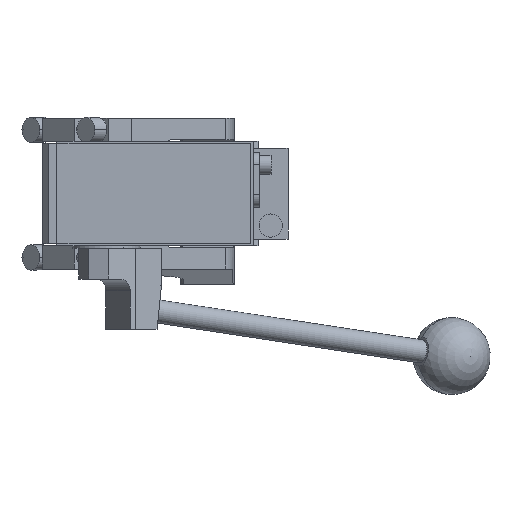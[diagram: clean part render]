
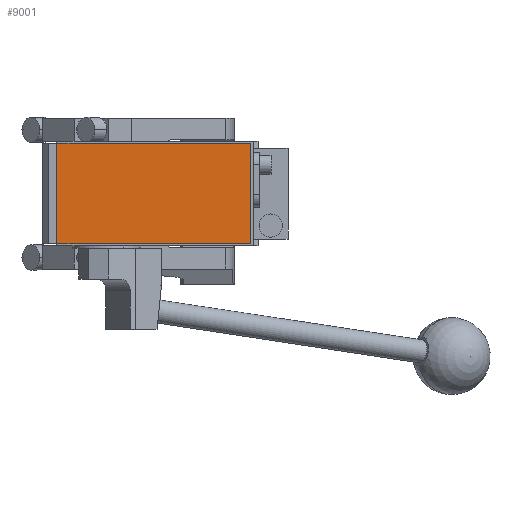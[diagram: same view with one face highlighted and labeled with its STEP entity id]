
A CAD part, front view. The second image highlights one B-rep face of the part: STEP entity #9001.
In plain terms, the highlighted planar face has unit normal (0, -1, 0).
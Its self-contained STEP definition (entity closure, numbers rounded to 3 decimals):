
#502 = CARTESIAN_POINT ( 'NONE',  ( 81., -286.5, 26. ) ) ;
#727 = LINE ( 'NONE', #8986, #7586 ) ;
#858 = EDGE_CURVE ( 'NONE', #5932, #4519, #14308, .T. ) ;
#2540 = ORIENTED_EDGE ( 'NONE', *, *, #858, .T. ) ;
#2554 = LINE ( 'NONE', #502, #7548 ) ;
#2842 = VECTOR ( 'NONE', #3238, 1000. ) ;
#2850 = ORIENTED_EDGE ( 'NONE', *, *, #4741, .T. ) ;
#3238 = DIRECTION ( 'NONE',  ( -1., 0., 0. ) ) ;
#3767 = DIRECTION ( 'NONE',  ( 0., 0., 1. ) ) ;
#4156 = DIRECTION ( 'NONE',  ( 0., -1., 0. ) ) ;
#4519 = VERTEX_POINT ( 'NONE', #12732 ) ;
#4730 = CARTESIAN_POINT ( 'NONE',  ( 81., -286.5, 26. ) ) ;
#4741 = EDGE_CURVE ( 'NONE', #4519, #10769, #727, .T. ) ;
#4847 = CARTESIAN_POINT ( 'NONE',  ( -19., -286.5, 26. ) ) ;
#5283 = AXIS2_PLACEMENT_3D ( 'NONE', #9972, #4156, #11196 ) ;
#5932 = VERTEX_POINT ( 'NONE', #10554 ) ;
#6557 = PLANE ( 'NONE',  #5283 ) ;
#7445 = DIRECTION ( 'NONE',  ( 0., 0., -1. ) ) ;
#7548 = VECTOR ( 'NONE', #3767, 1000. ) ;
#7586 = VECTOR ( 'NONE', #11335, 1000. ) ;
#7777 = FACE_OUTER_BOUND ( 'NONE', #14691, .T. ) ;
#8193 = ORIENTED_EDGE ( 'NONE', *, *, #9098, .T. ) ;
#8307 = CARTESIAN_POINT ( 'NONE',  ( 81., -286.5, -26. ) ) ;
#8543 = VERTEX_POINT ( 'NONE', #4730 ) ;
#8986 = CARTESIAN_POINT ( 'NONE',  ( -19., -286.5, -26. ) ) ;
#9001 = ADVANCED_FACE ( 'NONE', ( #7777 ), #6557, .T. ) ;
#9098 = EDGE_CURVE ( 'NONE', #8543, #5932, #12550, .T. ) ;
#9459 = VECTOR ( 'NONE', #7445, 1000. ) ;
#9972 = CARTESIAN_POINT ( 'NONE',  ( 0., -286.5, 0. ) ) ;
#10554 = CARTESIAN_POINT ( 'NONE',  ( -19., -286.5, 26. ) ) ;
#10769 = VERTEX_POINT ( 'NONE', #8307 ) ;
#11196 = DIRECTION ( 'NONE',  ( 0., 0., -1. ) ) ;
#11335 = DIRECTION ( 'NONE',  ( 1., 0., 0. ) ) ;
#12550 = LINE ( 'NONE', #13703, #2842 ) ;
#12732 = CARTESIAN_POINT ( 'NONE',  ( -19., -286.5, -26. ) ) ;
#13703 = CARTESIAN_POINT ( 'NONE',  ( -19., -286.5, 26. ) ) ;
#14308 = LINE ( 'NONE', #4847, #9459 ) ;
#14691 = EDGE_LOOP ( 'NONE', ( #2540, #2850, #14988, #8193 ) ) ;
#14767 = EDGE_CURVE ( 'NONE', #10769, #8543, #2554, .T. ) ;
#14988 = ORIENTED_EDGE ( 'NONE', *, *, #14767, .T. ) ;
